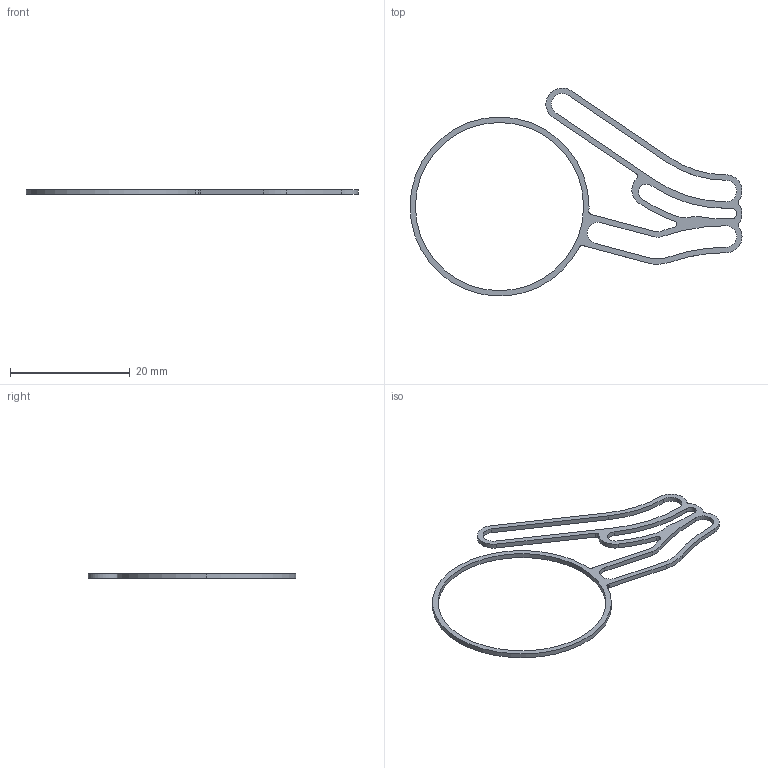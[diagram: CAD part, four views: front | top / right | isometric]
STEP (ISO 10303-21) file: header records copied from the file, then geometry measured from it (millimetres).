
FILE_DESCRIPTION (( 'STEP AP214' ), '1' );
FILE_NAME ('010801_LnG5_seal_cb_rA.STEP', '2023-01-26T23:03:46', ( '' ), ( '' ), 'SwSTEP 2.0', 'SolidWorks 2019', '' );
FILE_SCHEMA (( 'AUTOMOTIVE_DESIGN' ));
Length unit declared in the file: millimetre
Products named in the file (1): 010801_LnG5_seal_cb_rA
Bounding box: 55.45 x 34.71 x 0.79 mm (x, y, z)
Volume: 181.4 mm3; surface area: 828.8 mm2
Topology: 1 solids, 1 shells, 59 faces, 171 edges, 114 vertices
Faces by surface type: cylinder 49, plane 10
Entity records: 2053 total; most frequent: DIRECTION 389, CARTESIAN_POINT 345, ORIENTED_EDGE 342, EDGE_CURVE 171, AXIS2_PLACEMENT_3D 158, VERTEX_POINT 114, CIRCLE 98, VECTOR 73
